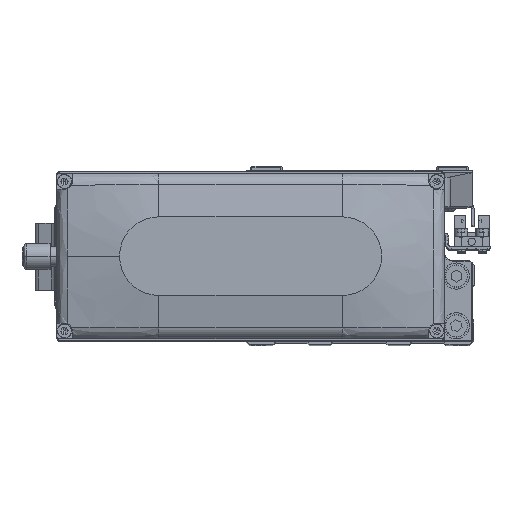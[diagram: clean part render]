
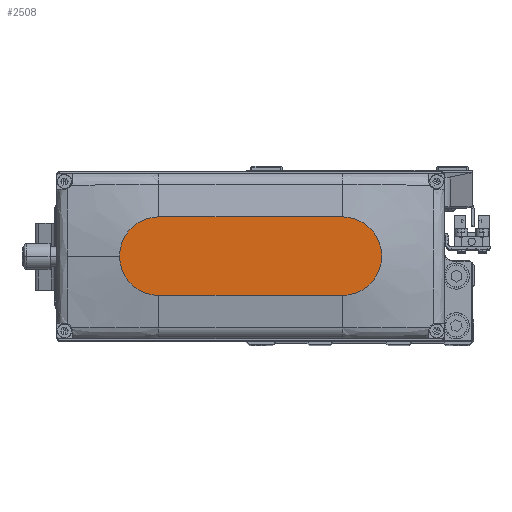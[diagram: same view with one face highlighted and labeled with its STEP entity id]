
A CAD part, top view. The second image highlights one B-rep face of the part: STEP entity #2508.
In plain terms, the highlighted planar face has unit normal (0, 0, 1).
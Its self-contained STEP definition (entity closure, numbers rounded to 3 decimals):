
#294 = VECTOR ( 'NONE', #6043, 1000. ) ;
#544 = CIRCLE ( 'NONE', #26614, 15. ) ;
#644 = EDGE_LOOP ( 'NONE', ( #39427, #6506, #13928, #3314, #37814 ) ) ;
#1541 = AXIS2_PLACEMENT_3D ( 'NONE', #38911, #6963, #21181 ) ;
#2508 = ADVANCED_FACE ( 'NONE', ( #26779 ), #40988, .T. ) ;
#3159 = CARTESIAN_POINT ( 'NONE',  ( -35., 15., 35. ) ) ;
#3314 = ORIENTED_EDGE ( 'NONE', *, *, #11733, .T. ) ;
#3990 = EDGE_CURVE ( 'NONE', #16743, #40490, #544, .T. ) ;
#4431 = CARTESIAN_POINT ( 'NONE',  ( 35., 0., 35. ) ) ;
#6043 = DIRECTION ( 'NONE',  ( 1., 0., 0. ) ) ;
#6506 = ORIENTED_EDGE ( 'NONE', *, *, #46030, .T. ) ;
#6963 = DIRECTION ( 'NONE',  ( 0., 0., 1. ) ) ;
#7198 = DIRECTION ( 'NONE',  ( 0., 0., 1. ) ) ;
#7542 = CARTESIAN_POINT ( 'NONE',  ( 50., 0., 35. ) ) ;
#8118 = EDGE_CURVE ( 'NONE', #18418, #8194, #23782, .T. ) ;
#8194 = VERTEX_POINT ( 'NONE', #45644 ) ;
#9042 = CARTESIAN_POINT ( 'NONE',  ( 0., 0., 35. ) ) ;
#11733 = EDGE_CURVE ( 'NONE', #8194, #16743, #19070, .T. ) ;
#13928 = ORIENTED_EDGE ( 'NONE', *, *, #8118, .T. ) ;
#16743 = VERTEX_POINT ( 'NONE', #7542 ) ;
#17386 = DIRECTION ( 'NONE',  ( -1., 0., 0. ) ) ;
#18418 = VERTEX_POINT ( 'NONE', #19177 ) ;
#18663 = DIRECTION ( 'NONE',  ( 0., 0., 1. ) ) ;
#19070 = CIRCLE ( 'NONE', #45120, 15. ) ;
#19177 = CARTESIAN_POINT ( 'NONE',  ( -35., -15., 35. ) ) ;
#19832 = CARTESIAN_POINT ( 'NONE',  ( 35., 15., 35. ) ) ;
#20292 = CARTESIAN_POINT ( 'NONE',  ( -35., 15., 35. ) ) ;
#20655 = AXIS2_PLACEMENT_3D ( 'NONE', #9042, #23290, #37493 ) ;
#21181 = DIRECTION ( 'NONE',  ( 1., 0., 0. ) ) ;
#21428 = DIRECTION ( 'NONE',  ( 1., 0., 0. ) ) ;
#23290 = DIRECTION ( 'NONE',  ( 0., 0., 1. ) ) ;
#23782 = LINE ( 'NONE', #37994, #294 ) ;
#25859 = VECTOR ( 'NONE', #17386, 1000. ) ;
#26614 = AXIS2_PLACEMENT_3D ( 'NONE', #4431, #18663, #32888 ) ;
#26779 = FACE_OUTER_BOUND ( 'NONE', #644, .T. ) ;
#32613 = VERTEX_POINT ( 'NONE', #20292 ) ;
#32888 = DIRECTION ( 'NONE',  ( 1., 0., 0. ) ) ;
#35125 = LINE ( 'NONE', #3159, #25859 ) ;
#37493 = DIRECTION ( 'NONE',  ( 1., 0., 0. ) ) ;
#37814 = ORIENTED_EDGE ( 'NONE', *, *, #3990, .T. ) ;
#37994 = CARTESIAN_POINT ( 'NONE',  ( -35., -15., 35. ) ) ;
#38369 = EDGE_CURVE ( 'NONE', #40490, #32613, #35125, .T. ) ;
#38911 = CARTESIAN_POINT ( 'NONE',  ( -35., 0., 35. ) ) ;
#39140 = CARTESIAN_POINT ( 'NONE',  ( 35., 0., 35. ) ) ;
#39427 = ORIENTED_EDGE ( 'NONE', *, *, #38369, .T. ) ;
#40490 = VERTEX_POINT ( 'NONE', #19832 ) ;
#40988 = PLANE ( 'NONE',  #20655 ) ;
#41730 = CIRCLE ( 'NONE', #1541, 15. ) ;
#45120 = AXIS2_PLACEMENT_3D ( 'NONE', #39140, #7198, #21428 ) ;
#45644 = CARTESIAN_POINT ( 'NONE',  ( 35., -15., 35. ) ) ;
#46030 = EDGE_CURVE ( 'NONE', #32613, #18418, #41730, .T. ) ;
